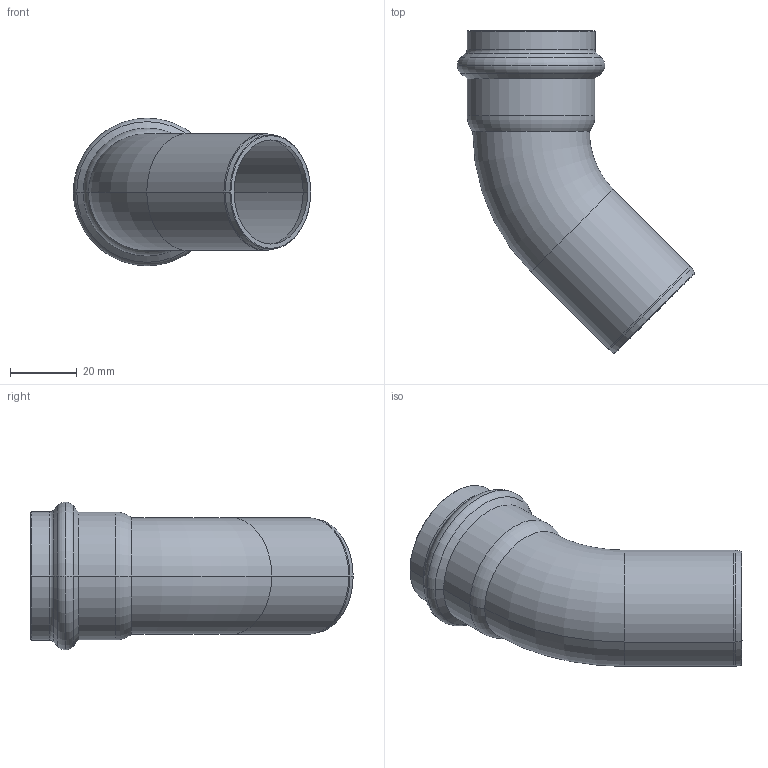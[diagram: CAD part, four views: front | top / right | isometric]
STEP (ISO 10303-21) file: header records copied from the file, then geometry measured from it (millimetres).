
FILE_DESCRIPTION(('CoCreate Modeling STEP Export'),'2;1');
FILE_NAME('8040VW35.stp','2013-01-29T14:43:26',(''),(''),'CoCreate Modeling STEP processor for AP214 (Solid Model)','CoCreate Modeling 17.00A 17-Jun-2010 (C) Parametric Technology GmbH','');
FILE_SCHEMA(('AUTOMOTIVE_DESIGN { 1 0 10303 214 1 1 1 1 }'));
Length unit declared in the file: millimetre
Products named in the file (1): 8040VW35
Bounding box: 71.27 x 96.7 x 44.3 mm (x, y, z)
Volume: 18181.8 mm3; surface area: 22363.6 mm2
Topology: 1 solids, 1 shells, 54 faces, 116 edges, 66 vertices
Faces by surface type: torus 20, cone 16, cylinder 14, plane 4
Entity records: 1195 total; most frequent: ORIENTED_EDGE 232, DIRECTION 190, CARTESIAN_POINT 176, EDGE_CURVE 116, AXIS2_PLACEMENT_3D 80, VERTEX_POINT 66, EDGE_LOOP 58, FACE_OUTER_BOUND 54
